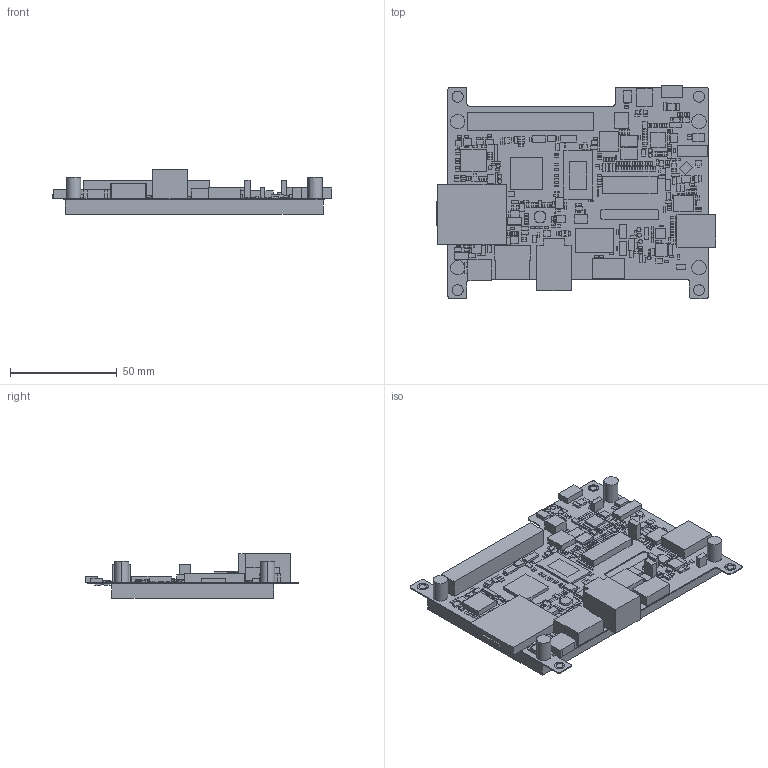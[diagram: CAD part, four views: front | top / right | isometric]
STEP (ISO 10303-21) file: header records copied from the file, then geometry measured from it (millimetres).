
FILE_DESCRIPTION((''),'2;1');
FILE_NAME('5_0_ASM','2015-01-28T',('Administrator'),(''),'PRO/ENGINEER BY PARAMETRIC TECHNOLOGY CORPORATION, 2007170','PRO/ENGINEER BY PARAMETRIC TECHNOLOGY CORPORATION, 2007170','');
FILE_SCHEMA(('CONFIG_CONTROL_DESIGN'));
Length unit declared in the file: inch
Products named in the file (72): 123928-LPC4088-DISPLAY-MOD-3971; 5_0_1; MTOP-6_1; CHIP-LED0603_1; 6_2-PAD_1; CT3528_1; DFN1410-6_1; TRANSFLASH-TFCMF-108-KINGFONT_1; EHF-105-01-L-D_1; C0805_1; C0603_1; CDPH4D19FNP-470MC_1; C0402K_1; SC70-3_1; KMR221GLFS_1; TFBGA208_0_8MM_1; HVQFN24_1; FBGA-90-0_8MM_1; SSOP08_1; SOT143_1; SOT353-5_1; HVQFN33_1; TO263-5_1; SOT23-5L_1; TSSOP16_1; LGA-14_1; SJ_2-0402_1; 86L_400MIL_TSOP-2_1; GOLD-CAP-SD_1; DFN10-3X3_1; SOD323-R_1; XBEE-PRO_1; 1X02-100MIL_1; ASFL1-OSCILLATOR_1; SSOP20_1; TSSOP8-3MM_BODY_1; 7M-CRYSTAL_1; MM39SL_1; SOD123_1; 555153-1_1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
Assembly tree (458 placements, depth 3):
  5_0_ASM
    123928-LPC4088-DISPLAY-MOD-3983_ASM
      123928-LPC4088-DISPLAY-MOD-3971
      5_0_1
      MTOP-6_1  x2
      CHIP-LED0603_1  x16
      6_2-PAD_1  x4
      CT3528_1  x4
      DFN1410-6_1  x3
      TRANSFLASH-TFCMF-108-KINGFONT_1
      EHF-105-01-L-D_1
      C0805_1  x20
      C0603_1  x8
      CDPH4D19FNP-470MC_1
      C0402K_1  x28
      SC70-3_1  x2
      KMR221GLFS_1  x2
      TFBGA208_0_8MM_1
      HVQFN24_1
      FBGA-90-0_8MM_1
      SSOP08_1
      SOT143_1  x3
      SOT353-5_1  x3
      HVQFN33_1
      TO263-5_1
      SOT23-5L_1  x3
      TSSOP16_1  x2
      LGA-14_1
      SJ_2-0402_1  x9
      86L_400MIL_TSOP-2_1
      GOLD-CAP-SD_1
      DFN10-3X3_1
      SOD323-R_1  x7
      XBEE-PRO_1
      1X02-100MIL_1  x2
      ASFL1-OSCILLATOR_1
      SSOP20_1
      TSSOP8-3MM_BODY_1
      7M-CRYSTAL_1  x3
      MM39SL_1
      SOD123_1
      555153-1_1
      USB_CON_A_RA_1
      CONN2-SMT-100MIL_1
      B1_00_1  x8
      TSSOP8_1
      C0402_1  x91
      SOT323_1  x7
      MA04-1_1  x2
      2X23_1
      MA06-1_1
      SOT363_PHILIPS_1  x2
      P-LCC-4-3_1
      QFN20_4X4_0_5MM_1
      DFN2018-6_1
      MA03-1_1
      SOT23_1  x5
      2X06_PMOD_1
      R0402_1  x166
      R0603_1  x3
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Bounding box: 130.91 x 99.84 x 20.98 mm (x, y, z)
Volume: 94854 mm3; surface area: 65082.2 mm2
Topology: 457 solids, 457 shells, 2909 faces, 5985 edges, 3990 vertices
Faces by surface type: plane 2781, cylinder 128
Entity records: 22555 total; most frequent: DIRECTION 4609, CARTESIAN_POINT 3713, ORIENTED_EDGE 2586, AXIS2_PLACEMENT_3D 1758, EDGE_CURVE 1293, VECTOR 1093, LINE 1093, VERTEX_POINT 862
